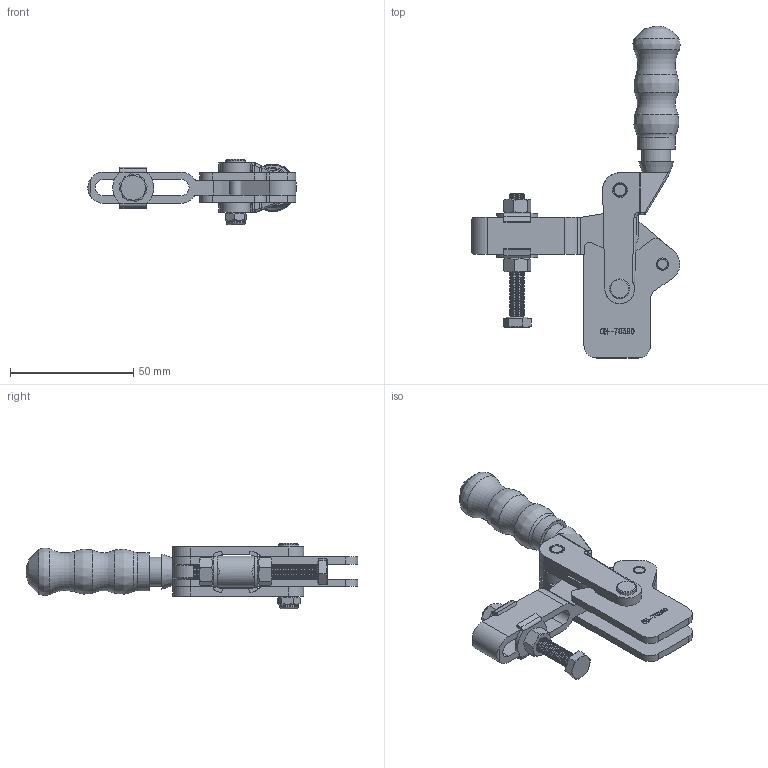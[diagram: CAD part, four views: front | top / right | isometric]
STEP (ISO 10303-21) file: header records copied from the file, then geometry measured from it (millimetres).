
FILE_DESCRIPTION(/* description */ ('STEP AP203'),/* implementation_level */ '2;1');
FILE_NAME(/* name */ 'D:\Vault_2016\Projekty\NASZ KATALOG\CLAMPTEK\STRONA\Heavy duty weldables\CH-70320\CH-70320_ZAMKNIETY.stp',/* time_stamp */ '2019-01-15T15:14:19+01:00',/* author */ ('CADENGINEERING4'),/* organization */ ('Microsoft'),/* preprocessor_version */ 'ST-DEVELOPER v17.2',/* originating_system */ 'Autodesk Inventor 2019',/* authorisation */ '');
FILE_SCHEMA (('AUTOMOTIVE_DESIGN { 1 0 10303 214 3 1 1 }'));
Length unit declared in the file: millimetre
Products named in the file (15): CH-70320_ZAMKNIETY; Ö§¼Ü1; ¼Ð¾ßÌå; Ö§¼Ü2; ºùÂ«Ì×; Ñ¹°Ñ; Á¬¸Ë; ¸ôÌ×; ¶ÌÐ¾Öá; ³¤Ð¾Öá; ÂÝ¸Ë; ·ÀÂÝ; CH-FW-141; hex head bolts-full thread grade c gb_GB_FASTENER_BOLT_HHBFTC M6X50-S; hex nuts, style 2-grades ab gb_GB_HEXAGON_TYPE13 M6 Normal Style-N
Assembly tree (18 placements, depth 2):
  CH-70320_ZAMKNIETY
    Ö§¼Ü1
    ¼Ð¾ßÌå
    Ö§¼Ü2
    ºùÂ«Ì×
    Ñ¹°Ñ
    Á¬¸Ë  x2
    ¸ôÌ×
    ¶ÌÐ¾Öá  x2
    ³¤Ð¾Öá
    ÂÝ¸Ë
    ·ÀÂÝ
    CH-FW-141  x2
    hex head bolts-full thread grade c gb_GB_FASTENER_BOLT_HHBFTC M6X50-S
    hex nuts, style 2-grades ab gb_GB_HEXAGON_TYPE13 M6 Normal Style-N  x2
Bounding box: 84.36 x 134.47 x 26.5 mm (x, y, z)
Volume: 40909.7 mm3; surface area: 31609.7 mm2
Topology: 18 solids, 18 shells, 920 faces, 2596 edges, 1742 vertices
Faces by surface type: plane 343, cone 212, cylinder 178, bspline 169, torus 13, sphere 5
Full cylindrical faces by diameter (mm): 1.65 x1, 1.683 x1, 4.134 x7, 4.917 x2, 5 x20, 5.16 x4, 5.2 x1, 6 x76, 6.8 x2, 7.78 x1, 8 x1, 11.7 x1, 12.517 x1, 12.521 x1, 14 x1, 15.5 x1
Entity records: 37547 total; most frequent: CARTESIAN_POINT 14736, ORIENTED_EDGE 4910, DIRECTION 4390, EDGE_CURVE 2455, VERTEX_POINT 1650, AXIS2_PLACEMENT_3D 1572, LINE 1246, VECTOR 1246
